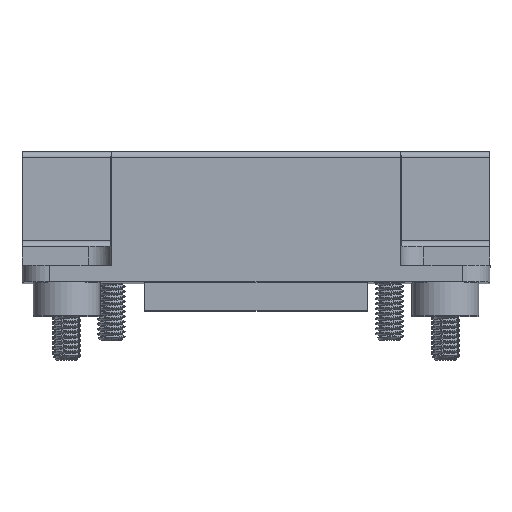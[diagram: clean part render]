
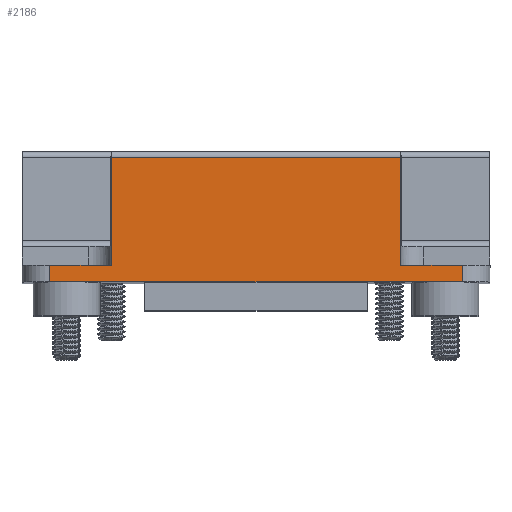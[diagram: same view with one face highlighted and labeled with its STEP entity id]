
A CAD part, top view. The second image highlights one B-rep face of the part: STEP entity #2186.
In plain terms, the highlighted planar face has unit normal (0, 0, 1) as drawn and (-1, 0, 0) by its records, which use the part's own axes.
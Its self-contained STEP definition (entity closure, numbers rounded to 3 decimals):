
#118 = LINE ( 'NONE', #3442, #9773 ) ;
#253 = VECTOR ( 'NONE', #7470, 1000. ) ;
#723 = FACE_OUTER_BOUND ( 'NONE', #2830, .T. ) ;
#731 = VERTEX_POINT ( 'NONE', #8232 ) ;
#1090 = DIRECTION ( 'NONE',  ( 0., 1., 0. ) ) ;
#1112 = DIRECTION ( 'NONE',  ( 0., 0., -1. ) ) ;
#1303 = CARTESIAN_POINT ( 'NONE',  ( -41., 11.2, -21. ) ) ;
#1349 = VECTOR ( 'NONE', #1090, 1000. ) ;
#1422 = ORIENTED_EDGE ( 'NONE', *, *, #6992, .F. ) ;
#1528 = CARTESIAN_POINT ( 'NONE',  ( -41., 1.5, 21. ) ) ;
#1586 = CARTESIAN_POINT ( 'NONE',  ( -41., 0., -21. ) ) ;
#1665 = EDGE_CURVE ( 'NONE', #4068, #4530, #3364, .T. ) ;
#1822 = CARTESIAN_POINT ( 'NONE',  ( -41., 11.2, 13. ) ) ;
#2102 = DIRECTION ( 'NONE',  ( 0., 0., -1. ) ) ;
#2186 = ADVANCED_FACE ( 'NONE', ( #723 ), #4160, .F. ) ;
#2257 = LINE ( 'NONE', #1528, #8442 ) ;
#2357 = CARTESIAN_POINT ( 'NONE',  ( -41., 1.5, 13. ) ) ;
#2564 = CARTESIAN_POINT ( 'NONE',  ( -41., 0., -18.5 ) ) ;
#2830 = EDGE_LOOP ( 'NONE', ( #4165, #9087, #5808, #7919, #6497, #9997, #5061, #1422 ) ) ;
#3259 = DIRECTION ( 'NONE',  ( 0., 0., -1. ) ) ;
#3364 = LINE ( 'NONE', #1586, #11114 ) ;
#3442 = CARTESIAN_POINT ( 'NONE',  ( -41., -11.314, 13. ) ) ;
#3484 = CARTESIAN_POINT ( 'NONE',  ( -41., 1.5, -18.5 ) ) ;
#4068 = VERTEX_POINT ( 'NONE', #2564 ) ;
#4160 = PLANE ( 'NONE',  #8617 ) ;
#4165 = ORIENTED_EDGE ( 'NONE', *, *, #7408, .T. ) ;
#4512 = EDGE_CURVE ( 'NONE', #7600, #4068, #5107, .T. ) ;
#4530 = VERTEX_POINT ( 'NONE', #8533 ) ;
#4861 = VECTOR ( 'NONE', #3259, 1000. ) ;
#5061 = ORIENTED_EDGE ( 'NONE', *, *, #10196, .T. ) ;
#5107 = LINE ( 'NONE', #10151, #5260 ) ;
#5260 = VECTOR ( 'NONE', #10045, 1000. ) ;
#5266 = DIRECTION ( 'NONE',  ( 0., 1., 0. ) ) ;
#5402 = CARTESIAN_POINT ( 'NONE',  ( -41., 3.2, -21. ) ) ;
#5456 = DIRECTION ( 'NONE',  ( 1., 0., 0. ) ) ;
#5660 = CARTESIAN_POINT ( 'NONE',  ( -41., 1.5, -21. ) ) ;
#5808 = ORIENTED_EDGE ( 'NONE', *, *, #1665, .T. ) ;
#5855 = VECTOR ( 'NONE', #2102, 1000. ) ;
#6125 = VERTEX_POINT ( 'NONE', #9105 ) ;
#6159 = VERTEX_POINT ( 'NONE', #2357 ) ;
#6332 = CARTESIAN_POINT ( 'NONE',  ( -41., 3.2, 18.5 ) ) ;
#6497 = ORIENTED_EDGE ( 'NONE', *, *, #10224, .F. ) ;
#6992 = EDGE_CURVE ( 'NONE', #6125, #731, #9881, .T. ) ;
#7408 = EDGE_CURVE ( 'NONE', #6125, #7600, #9806, .T. ) ;
#7470 = DIRECTION ( 'NONE',  ( 0., 1., 0. ) ) ;
#7600 = VERTEX_POINT ( 'NONE', #3484 ) ;
#7919 = ORIENTED_EDGE ( 'NONE', *, *, #9522, .T. ) ;
#8232 = CARTESIAN_POINT ( 'NONE',  ( -41., 11.2, -13. ) ) ;
#8442 = VECTOR ( 'NONE', #9000, 1000. ) ;
#8456 = DIRECTION ( 'NONE',  ( 0., 0., 1. ) ) ;
#8533 = CARTESIAN_POINT ( 'NONE',  ( -41., 0., 18.5 ) ) ;
#8617 = AXIS2_PLACEMENT_3D ( 'NONE', #5402, #5456, #1112 ) ;
#8799 = CARTESIAN_POINT ( 'NONE',  ( -41., 1.5, 18.5 ) ) ;
#9000 = DIRECTION ( 'NONE',  ( 0., 0., 1. ) ) ;
#9087 = ORIENTED_EDGE ( 'NONE', *, *, #4512, .T. ) ;
#9105 = CARTESIAN_POINT ( 'NONE',  ( -41., 1.5, -13. ) ) ;
#9430 = EDGE_CURVE ( 'NONE', #6159, #10746, #118, .T. ) ;
#9515 = VERTEX_POINT ( 'NONE', #8799 ) ;
#9522 = EDGE_CURVE ( 'NONE', #4530, #9515, #9686, .T. ) ;
#9686 = LINE ( 'NONE', #6332, #1349 ) ;
#9773 = VECTOR ( 'NONE', #5266, 1000. ) ;
#9806 = LINE ( 'NONE', #5660, #5855 ) ;
#9881 = LINE ( 'NONE', #10834, #253 ) ;
#9953 = LINE ( 'NONE', #1303, #4861 ) ;
#9997 = ORIENTED_EDGE ( 'NONE', *, *, #9430, .T. ) ;
#10045 = DIRECTION ( 'NONE',  ( 0., -1., 0. ) ) ;
#10151 = CARTESIAN_POINT ( 'NONE',  ( -41., 3.2, -18.5 ) ) ;
#10196 = EDGE_CURVE ( 'NONE', #10746, #731, #9953, .T. ) ;
#10224 = EDGE_CURVE ( 'NONE', #6159, #9515, #2257, .T. ) ;
#10746 = VERTEX_POINT ( 'NONE', #1822 ) ;
#10834 = CARTESIAN_POINT ( 'NONE',  ( -41., -11.314, -13. ) ) ;
#11114 = VECTOR ( 'NONE', #8456, 1000. ) ;
